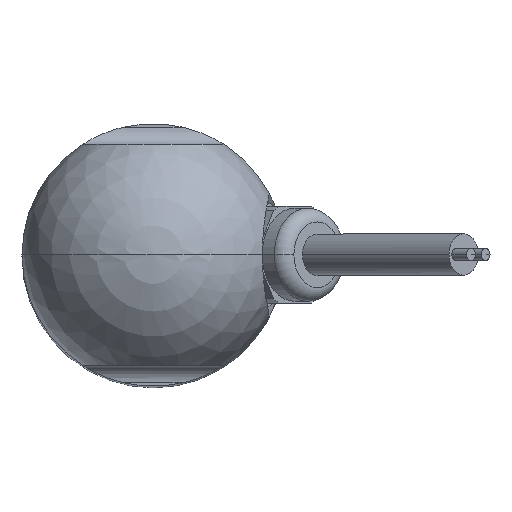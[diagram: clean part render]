
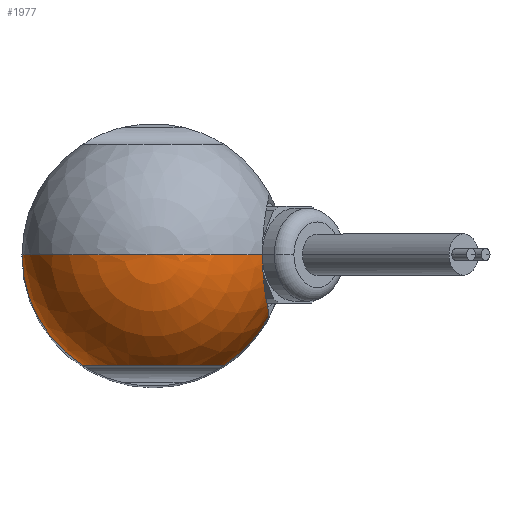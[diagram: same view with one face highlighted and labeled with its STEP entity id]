
A CAD part, top view. The second image highlights one B-rep face of the part: STEP entity #1977.
In plain terms, the highlighted spherical face has radius 19 mm.
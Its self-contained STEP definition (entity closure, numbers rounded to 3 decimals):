
#504=CARTESIAN_POINT('',(16.756,-8.957,
0.));
#505=CARTESIAN_POINT('',(16.781,-8.912,0.677));
#506=CARTESIAN_POINT('',(16.786,-8.749,1.996));
#507=CARTESIAN_POINT('',(16.699,-8.268,3.867));
#508=CARTESIAN_POINT('',(16.555,-7.574,5.531));
#509=CARTESIAN_POINT('',(16.389,-6.71,6.942));
#510=CARTESIAN_POINT('',(16.236,-5.794,8.024));
#511=CARTESIAN_POINT('',(16.105,-4.857,8.863));
#512=CARTESIAN_POINT('',(15.987,-3.803,9.567));
#513=CARTESIAN_POINT('',(15.888,-2.6,10.12));
#514=CARTESIAN_POINT('',(15.824,-1.303,10.464));
#515=CARTESIAN_POINT('',(15.81,-0.434,10.538));
#516=CARTESIAN_POINT('',(15.81,0.,10.538));
#518=CARTESIAN_POINT('',(0.,-16.,0.));
#519=DIRECTION('',(0.,1.,0.));
#520=DIRECTION('',(-1.,0.,0.));
#521=AXIS2_PLACEMENT_3D('',#518,#519,#520);
#523=CARTESIAN_POINT('',(0.,0.,0.));
#524=DIRECTION('',(0.,-1.,0.));
#525=DIRECTION('',(0.,0.,1.));
#526=AXIS2_PLACEMENT_3D('',#523,#524,#525);
#528=CARTESIAN_POINT('',(0.,0.,0.));
#529=DIRECTION('',(0.,1.,0.));
#530=DIRECTION('',(0.,0.,1.));
#531=AXIS2_PLACEMENT_3D('',#528,#529,#530);
#540=CARTESIAN_POINT('',(16.756,-8.957,
0.));
#560=CARTESIAN_POINT('',(0.,0.,0.));
#561=DIRECTION('',(0.,0.,-1.));
#562=DIRECTION('',(-0.539,-0.842,0.));
#563=AXIS2_PLACEMENT_3D('',#560,#561,#562);
#578=CARTESIAN_POINT('',(0.,0.,0.));
#579=DIRECTION('',(0.,0.,-1.));
#580=DIRECTION('',(0.882,-0.471,0.));
#581=AXIS2_PLACEMENT_3D('',#578,#579,#580);
#959=CARTESIAN_POINT('',(15.81,0.,10.538));
#1062=CARTESIAN_POINT('',(0.,0.,19.));
#1063=CARTESIAN_POINT('',(-19.,0.,0.));
#1064=VERTEX_POINT('',#1062);
#1065=VERTEX_POINT('',#1063);
#1098=CARTESIAN_POINT('',(-10.247,-16.,0.));
#1099=CARTESIAN_POINT('',(10.247,-16.,0.));
#1100=VERTEX_POINT('',#1098);
#1101=VERTEX_POINT('',#1099);
#1169=VERTEX_POINT('',#959);
#1171=VERTEX_POINT('',#540);
#1959=CARTESIAN_POINT('',(0.,0.,0.));
#1960=DIRECTION('',(0.,0.,1.));
#1961=DIRECTION('',(-1.,0.,0.));
#1962=AXIS2_PLACEMENT_3D('',#1959,#1960,#1961);
#1963=SPHERICAL_SURFACE('',#1962,19.);
#1964=ORIENTED_EDGE('',*,*,#1948,.F.);
#1966=ORIENTED_EDGE('',*,*,#1965,.T.);
#1968=ORIENTED_EDGE('',*,*,#1967,.F.);
#1970=ORIENTED_EDGE('',*,*,#1969,.T.);
#1972=ORIENTED_EDGE('',*,*,#1971,.F.);
#1974=ORIENTED_EDGE('',*,*,#1973,.T.);
#1975=EDGE_LOOP('',(#1964,#1966,#1968,#1970,#1972,#1974));
#1976=FACE_OUTER_BOUND('',#1975,.F.);
#517=B_SPLINE_CURVE_WITH_KNOTS('',3,(#504,#505,#506,#507,#508,#509,#510,#511,
#512,#513,#514,#515,#516),.UNSPECIFIED.,.F.,.F.,(4,1,1,1,1,1,1,1,1,1,4),(0.,
0.1,0.2,0.3,0.4,0.5,0.6,0.7,0.8,0.9,1.),.UNSPECIFIED.);
#522=CIRCLE('',#521,10.247);
#527=CIRCLE('',#526,19.);
#532=CIRCLE('',#531,19.);
#564=CIRCLE('',#563,19.);
#582=CIRCLE('',#581,19.);
#1948=EDGE_CURVE('',#1171,#1169,#517,.T.);
#1965=EDGE_CURVE('',#1171,#1101,#582,.T.);
#1967=EDGE_CURVE('',#1100,#1101,#522,.T.);
#1969=EDGE_CURVE('',#1100,#1065,#564,.T.);
#1971=EDGE_CURVE('',#1064,#1065,#527,.T.);
#1973=EDGE_CURVE('',#1064,#1169,#532,.T.);
#1977=ADVANCED_FACE('',(#1976),#1963,.T.);
